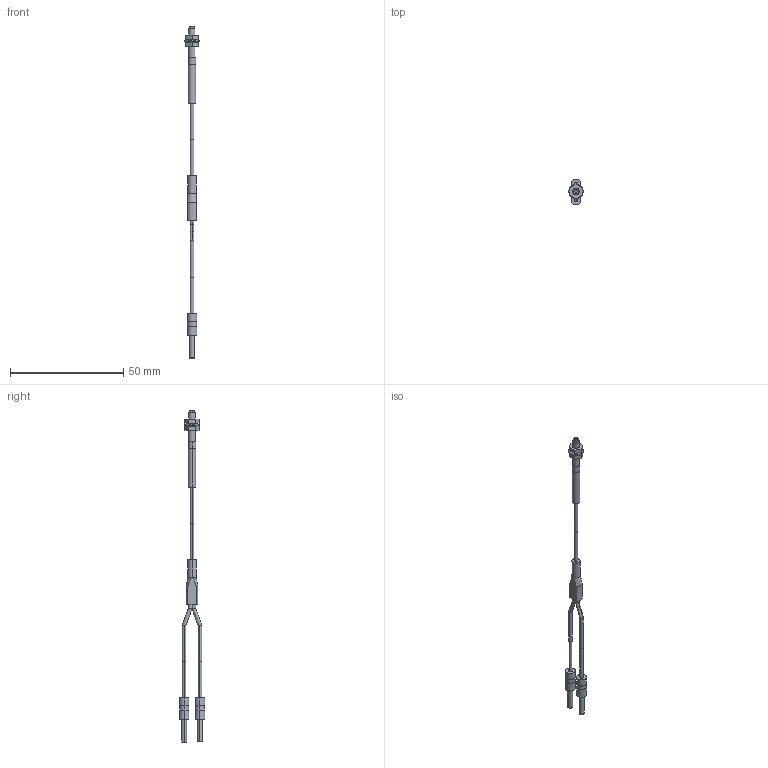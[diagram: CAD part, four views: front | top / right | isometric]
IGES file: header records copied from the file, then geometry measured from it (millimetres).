
Start section: SolidWorks IGES FILE using analytic representation for surfaces
Global section: file name: C:\Documents and Settings\yk0651\デスクトップ\3D_catalog_050904\0_IGES\FD-EG1.IGS; native system: SolidWorks 2004 by SolidWorks Corporation; preprocessor: Version 5.3; author: yk0651; date: 050904.182130; units: millimetre
Bounding box: 6.5 x 11.33 x 146.5 mm (x, y, z)
Volume: 1203.6 mm3; surface area: 1937.3 mm2
Topology: 7 solids, 7 shells, 104 faces, 214 edges, 140 vertices
Faces by surface type: revolution 59, plane 45
